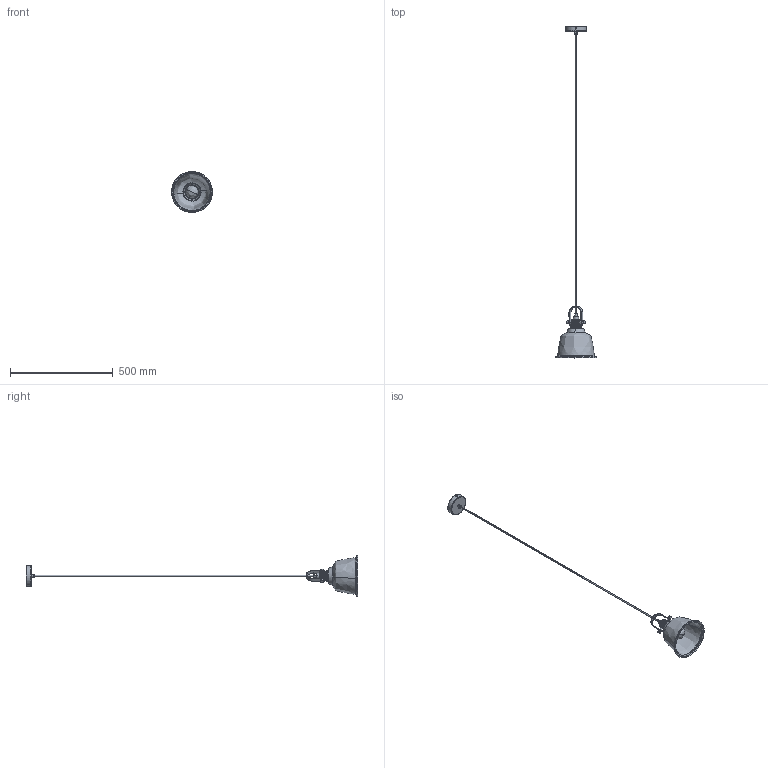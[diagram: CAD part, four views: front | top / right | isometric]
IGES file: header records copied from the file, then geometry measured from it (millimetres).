
Start section: SolidWorks IGES file using analytic representation for surfaces
Global section: file name: F:\GABRYSIA\MODELE 3D\AMALFI 9152 9153_WWW\AMALFI 9152 9153.IGS; native system: SolidWorks 2017; preprocessor: SolidWorks 2017; author: Togambi; date: 200713.135602; units: millimetre
Bounding box: 199.65 x 1614.91 x 199.65 mm (x, y, z)
Surface area: 298964.1 mm2 (no closed solid volume)
Topology: 0 solids, 0 shells, 2787 faces, 20878 edges, 20852 vertices
Faces by surface type: bspline 1731, revolution 1056
